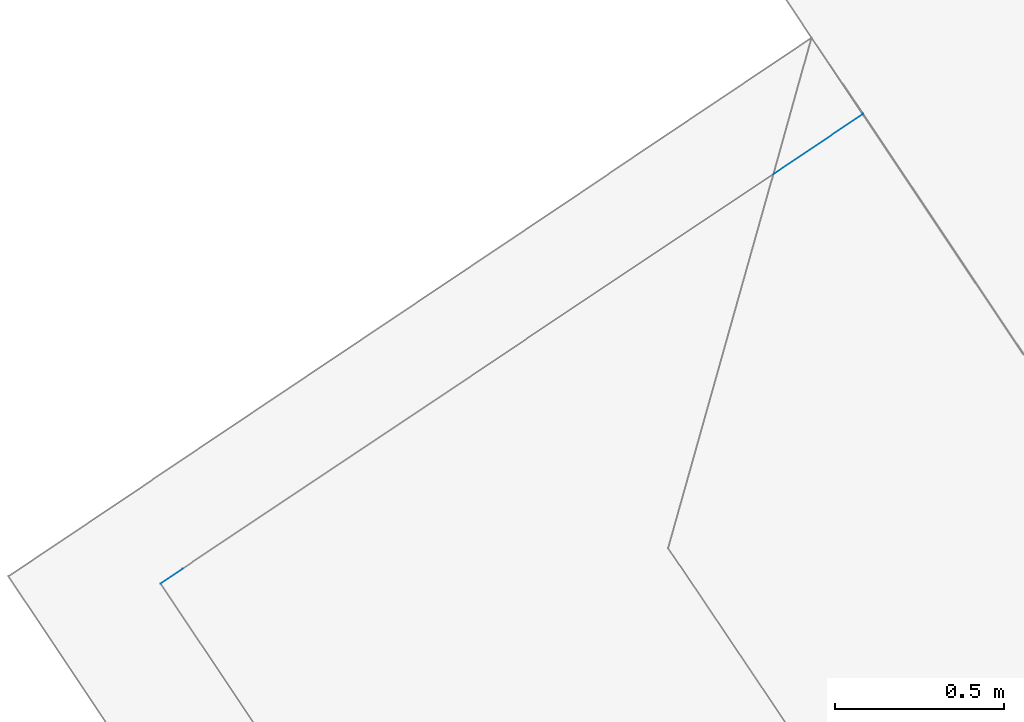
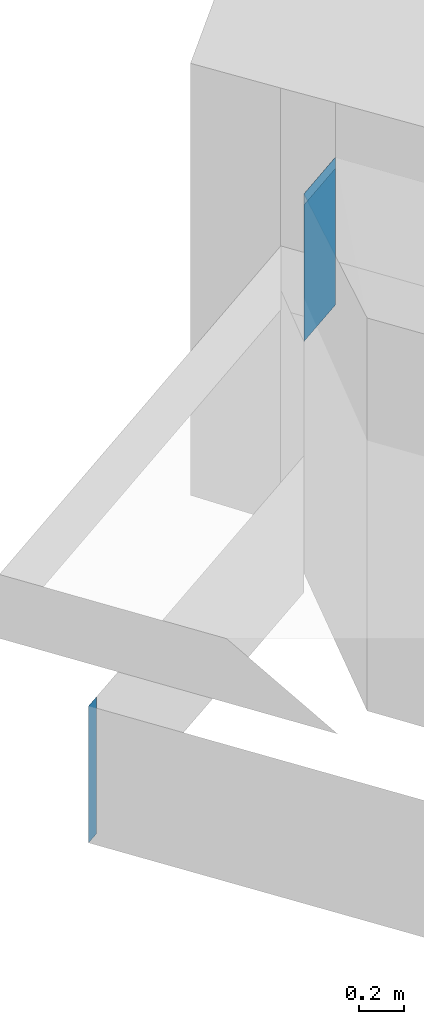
# Not in any storey, part 42 of 57: 5 walls.
"""IFC4 building model written with IfcOpenShell, lengths in metres."""

from ifc_helpers import new_model, entity, si_unit, converted_unit, origin, place, context, subcontext, project, spatial, face_set, surface_model, element, save


model = new_model("IFC4")

# Units and contexts
model_context = context("Model", 3, precision=1e-05, world=origin())
body_context = subcontext(model_context, "Body", "Model", "MODEL_VIEW")
ifc_project = project(units=[converted_unit("PLANEANGLEUNIT", "DEGREE", entity("IfcRatioMeasure", 0.0174532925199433), si_unit("PLANEANGLEUNIT", "RADIAN"), dimensions=[0, 0, 0, 0, 0, 0, 0]), si_unit("AREAUNIT", "SQUARE_METRE"), si_unit("LENGTHUNIT", "METRE")], contexts=[model_context])

# Site, building
site_placement = place(None, origin())
site = spatial("IfcSite", under=ifc_project, at=site_placement, Name="_site")
building_placement = place(site_placement, origin())
building = spatial("IfcBuilding", under=site, at=building_placement, Name="_building")

# Walls
wall_1_placement = place(building_placement, origin())
element("IfcWall", 1, at=wall_1_placement, inside=building, Name="Wall", PredefinedType="NOTDEFINED", context=body_context, shape_type="SurfaceModel", body=[
    surface_model("IfcFaceBasedSurfaceModel", [(87.519, 83.901, 113.659), (87.785, 84.079, 113.659), (87.785, 84.079, 112.849), (87.519, 83.901, 112.849)], [face_set([[[0, 1, 2, 3]]])]),
])
wall_2_placement = place(building_placement, origin())
element("IfcWall", 2, at=wall_2_placement, inside=building, Name="Wall", PredefinedType="NOTDEFINED", context=body_context, shape_type="SurfaceModel", body=[
    surface_model("IfcFaceBasedSurfaceModel", [(87.519, 83.901, 112.849), (87.785, 84.079, 112.849), (87.785, 84.079, 113.599), (87.519, 83.901, 113.599)], [face_set([[[0, 1, 2, 3]]])]),
])
wall_3_placement = place(building_placement, origin())
element("IfcWall", 3, at=wall_3_placement, inside=building, Name="Wall", PredefinedType="NOTDEFINED", context=body_context, shape_type="SurfaceModel", body=[
    surface_model("IfcFaceBasedSurfaceModel", [(85.703, 82.688, 111.475), (85.768, 82.731, 111.475), (85.768, 82.731, 112.225), (85.703, 82.688, 112.225)], [face_set([[[0, 1, 2, 3]]])]),
])
wall_4_placement = place(building_placement, origin())
element("IfcWall", 4, at=wall_4_placement, inside=building, Name="Wall", PredefinedType="NOTDEFINED", context=body_context, shape_type="SurfaceModel", body=[
    surface_model("IfcFaceBasedSurfaceModel", [(87.519, 83.901, 112.849), (87.785, 84.079, 112.849), (87.785, 84.079, 113.599), (87.519, 83.901, 113.599)], [face_set([[[0, 1, 2, 3]]])]),
])
wall_5_placement = place(building_placement, origin())
element("IfcWall", 5, at=wall_5_placement, inside=building, Name="Wall", PredefinedType="NOTDEFINED", context=body_context, shape_type="SurfaceModel", body=[
    surface_model("IfcFaceBasedSurfaceModel", [(85.703, 82.688, 111.475), (85.768, 82.731, 111.475), (85.768, 82.731, 112.225), (85.703, 82.688, 112.225)], [face_set([[[0, 1, 2, 3]]])]),
])

save(model, "model.ifc")
